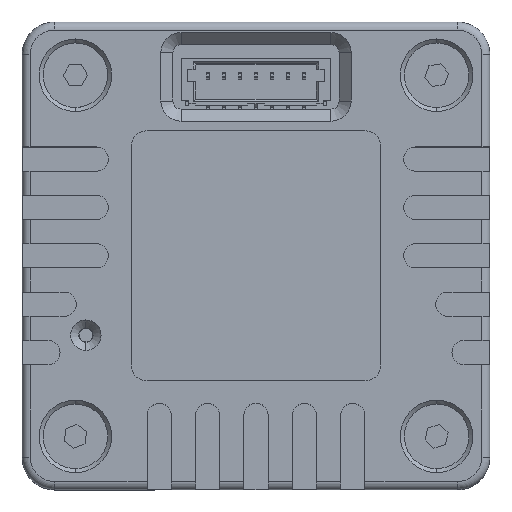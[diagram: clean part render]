
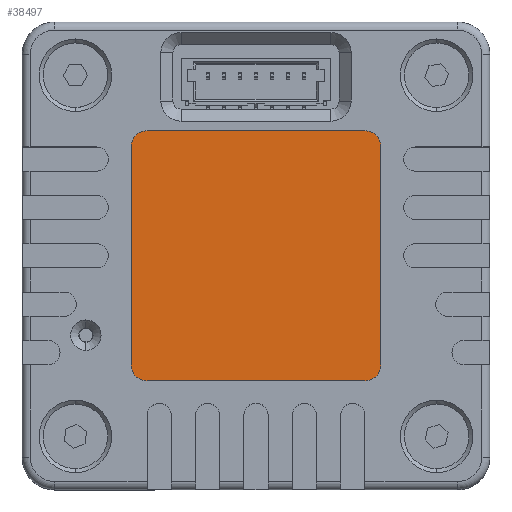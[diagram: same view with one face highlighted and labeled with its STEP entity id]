
A CAD part, top view. The second image highlights one B-rep face of the part: STEP entity #38497.
In plain terms, the highlighted planar face has unit normal (0, 0, 1) as drawn and (0, 0, -1) by its records, which use the part's own axes.
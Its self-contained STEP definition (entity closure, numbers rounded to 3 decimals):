
#1381 = AXIS2_PLACEMENT_3D ( 'NONE', #30795, #58906, #51988 ) ;
#2204 = CARTESIAN_POINT ( 'NONE',  ( 7.75, 7.75, 0.1 ) ) ;
#2621 = CARTESIAN_POINT ( 'NONE',  ( -7.75, -6.75, 0.1 ) ) ;
#4337 = DIRECTION ( 'NONE',  ( 0., 0., -1. ) ) ;
#4957 = CARTESIAN_POINT ( 'NONE',  ( 6.75, -7.75, 0.1 ) ) ;
#7551 = DIRECTION ( 'NONE',  ( 0., -1., 0. ) ) ;
#8131 = EDGE_CURVE ( 'NONE', #34271, #37657, #8720, .T. ) ;
#8224 = CARTESIAN_POINT ( 'NONE',  ( 7.75, -7.75, 0.1 ) ) ;
#8506 = VERTEX_POINT ( 'NONE', #42712 ) ;
#8720 = CIRCLE ( 'NONE', #33605, 1. ) ;
#9365 = EDGE_CURVE ( 'NONE', #26932, #84218, #34965, .T. ) ;
#9387 = EDGE_CURVE ( 'NONE', #82515, #52632, #50070, .T. ) ;
#10001 = EDGE_LOOP ( 'NONE', ( #65663, #25617, #54854, #90937, #80953, #55032, #45377, #52626 ) ) ;
#10306 = CARTESIAN_POINT ( 'NONE',  ( 0., 0., 0.1 ) ) ;
#13849 = AXIS2_PLACEMENT_3D ( 'NONE', #89979, #33378, #61516 ) ;
#19485 = PLANE ( 'NONE',  #24354 ) ;
#21537 = LINE ( 'NONE', #8224, #36105 ) ;
#22420 = DIRECTION ( 'NONE',  ( 1., 0., 0. ) ) ;
#23676 = DIRECTION ( 'NONE',  ( 1., 0., 0. ) ) ;
#24354 = AXIS2_PLACEMENT_3D ( 'NONE', #10306, #38304, #66393 ) ;
#25617 = ORIENTED_EDGE ( 'NONE', *, *, #9365, .T. ) ;
#26932 = VERTEX_POINT ( 'NONE', #33683 ) ;
#27160 = CARTESIAN_POINT ( 'NONE',  ( 6.75, 6.75, 0.1 ) ) ;
#27454 = AXIS2_PLACEMENT_3D ( 'NONE', #27160, #62131, #55219 ) ;
#28863 = LINE ( 'NONE', #2204, #36669 ) ;
#30795 = CARTESIAN_POINT ( 'NONE',  ( -6.75, -6.75, 0.1 ) ) ;
#33378 = DIRECTION ( 'NONE',  ( 0., 0., -1. ) ) ;
#33605 = AXIS2_PLACEMENT_3D ( 'NONE', #45690, #4337, #23676 ) ;
#33683 = CARTESIAN_POINT ( 'NONE',  ( 6.75, 7.75, 0.1 ) ) ;
#34271 = VERTEX_POINT ( 'NONE', #78526 ) ;
#34965 = CIRCLE ( 'NONE', #27454, 1. ) ;
#35813 = CARTESIAN_POINT ( 'NONE',  ( -7.75, -7.75, 0.1 ) ) ;
#36105 = VECTOR ( 'NONE', #85489, 1000. ) ;
#36669 = VECTOR ( 'NONE', #22420, 1000. ) ;
#37657 = VERTEX_POINT ( 'NONE', #4957 ) ;
#38304 = DIRECTION ( 'NONE',  ( 0., 0., 1. ) ) ;
#38497 = ADVANCED_FACE ( 'NONE', ( #82484 ), #19485, .F. ) ;
#40810 = EDGE_CURVE ( 'NONE', #8506, #82515, #85069, .T. ) ;
#41981 = EDGE_CURVE ( 'NONE', #58966, #26932, #28863, .T. ) ;
#42414 = CARTESIAN_POINT ( 'NONE',  ( 7.75, -7.75, 0.1 ) ) ;
#42712 = CARTESIAN_POINT ( 'NONE',  ( -6.75, -7.75, 0.1 ) ) ;
#45258 = EDGE_CURVE ( 'NONE', #37657, #8506, #21537, .T. ) ;
#45377 = ORIENTED_EDGE ( 'NONE', *, *, #9387, .T. ) ;
#45690 = CARTESIAN_POINT ( 'NONE',  ( 6.75, -6.75, 0.1 ) ) ;
#46286 = EDGE_CURVE ( 'NONE', #52632, #58966, #69608, .T. ) ;
#49175 = DIRECTION ( 'NONE',  ( 0., 1., 0. ) ) ;
#49283 = CARTESIAN_POINT ( 'NONE',  ( -6.75, 7.75, 0.1 ) ) ;
#50070 = LINE ( 'NONE', #35813, #55574 ) ;
#51988 = DIRECTION ( 'NONE',  ( 1., 0., 0. ) ) ;
#52626 = ORIENTED_EDGE ( 'NONE', *, *, #46286, .T. ) ;
#52632 = VERTEX_POINT ( 'NONE', #60739 ) ;
#54854 = ORIENTED_EDGE ( 'NONE', *, *, #81531, .T. ) ;
#55032 = ORIENTED_EDGE ( 'NONE', *, *, #40810, .T. ) ;
#55219 = DIRECTION ( 'NONE',  ( 1., 0., 0. ) ) ;
#55574 = VECTOR ( 'NONE', #49175, 1000. ) ;
#58906 = DIRECTION ( 'NONE',  ( 0., 0., -1. ) ) ;
#58966 = VERTEX_POINT ( 'NONE', #49283 ) ;
#60739 = CARTESIAN_POINT ( 'NONE',  ( -7.75, 6.75, 0.1 ) ) ;
#61516 = DIRECTION ( 'NONE',  ( 1., 0., 0. ) ) ;
#62131 = DIRECTION ( 'NONE',  ( 0., 0., -1. ) ) ;
#65663 = ORIENTED_EDGE ( 'NONE', *, *, #41981, .T. ) ;
#66393 = DIRECTION ( 'NONE',  ( 1., 0., 0. ) ) ;
#69608 = CIRCLE ( 'NONE', #13849, 1. ) ;
#72963 = CARTESIAN_POINT ( 'NONE',  ( 7.75, 6.75, 0.1 ) ) ;
#78526 = CARTESIAN_POINT ( 'NONE',  ( 7.75, -6.75, 0.1 ) ) ;
#80953 = ORIENTED_EDGE ( 'NONE', *, *, #45258, .T. ) ;
#81531 = EDGE_CURVE ( 'NONE', #84218, #34271, #84364, .T. ) ;
#82484 = FACE_OUTER_BOUND ( 'NONE', #10001, .T. ) ;
#82515 = VERTEX_POINT ( 'NONE', #2621 ) ;
#84218 = VERTEX_POINT ( 'NONE', #72963 ) ;
#84364 = LINE ( 'NONE', #42414, #89542 ) ;
#85069 = CIRCLE ( 'NONE', #1381, 1. ) ;
#85489 = DIRECTION ( 'NONE',  ( -1., 0., 0. ) ) ;
#89542 = VECTOR ( 'NONE', #7551, 1000. ) ;
#89979 = CARTESIAN_POINT ( 'NONE',  ( -6.75, 6.75, 0.1 ) ) ;
#90937 = ORIENTED_EDGE ( 'NONE', *, *, #8131, .T. ) ;
